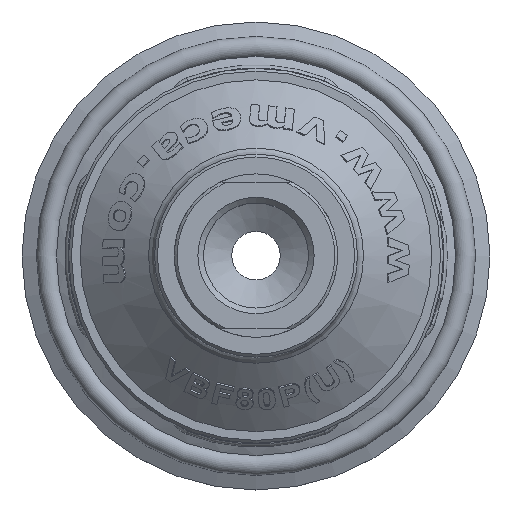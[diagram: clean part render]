
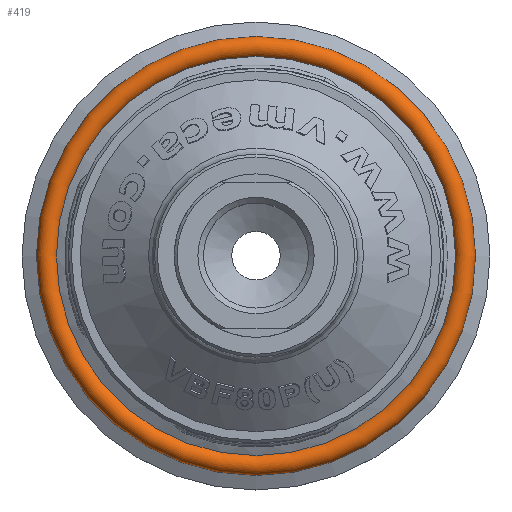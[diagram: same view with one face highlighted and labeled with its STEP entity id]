
A CAD part, top view. The second image highlights one B-rep face of the part: STEP entity #419.
In plain terms, the highlighted toroidal (fillet/blend) face has major radius 37.069 mm and minor radius 1.871 mm.
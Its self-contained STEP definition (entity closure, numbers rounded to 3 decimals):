
#419 = ADVANCED_FACE( '', ( #1036, #1037 ), #1038, .T. );
#1036 = FACE_OUTER_BOUND( '', #3451, .T. );
#1037 = FACE_OUTER_BOUND( '', #3452, .T. );
#1038 = TOROIDAL_SURFACE( '', #3453, 37.069, 1.871 );
#3451 = EDGE_LOOP( '', ( #10851 ) );
#3452 = EDGE_LOOP( '', ( #10852 ) );
#3453 = AXIS2_PLACEMENT_3D( '', #10853, #10854, #10855 );
#10851 = ORIENTED_EDGE( '', *, *, #12481, .F. );
#10852 = ORIENTED_EDGE( '', *, *, #12195, .T. );
#10853 = CARTESIAN_POINT( '', ( 0., 0., -20.793 ) );
#10854 = DIRECTION( '', ( 0., 0., 1. ) );
#10855 = DIRECTION( '', ( 1., 0., 0. ) );
#12195 = EDGE_CURVE( '', #13071, #13071, #13072, .T. );
#12481 = EDGE_CURVE( '', #13563, #13563, #13564, .T. );
#13071 = VERTEX_POINT( '', #14390 );
#13072 = CIRCLE( '', #14391, 38.736 );
#13563 = VERTEX_POINT( '', #16586 );
#13564 = CIRCLE( '', #16587, 35.402 );
#14390 = CARTESIAN_POINT( '', ( 38.736, 0., -21.642 ) );
#14391 = AXIS2_PLACEMENT_3D( '', #21155, #21156, #21157 );
#16586 = CARTESIAN_POINT( '', ( 35.402, 0., -19.943 ) );
#16587 = AXIS2_PLACEMENT_3D( '', #21270, #21271, #21272 );
#21155 = CARTESIAN_POINT( '', ( 0., 0., -21.642 ) );
#21156 = DIRECTION( '', ( 0., 0., 1. ) );
#21157 = DIRECTION( '', ( 1., 0., 0. ) );
#21270 = CARTESIAN_POINT( '', ( 0., 0., -19.943 ) );
#21271 = DIRECTION( '', ( 0., 0., 1. ) );
#21272 = DIRECTION( '', ( 1., 0., 0. ) );
